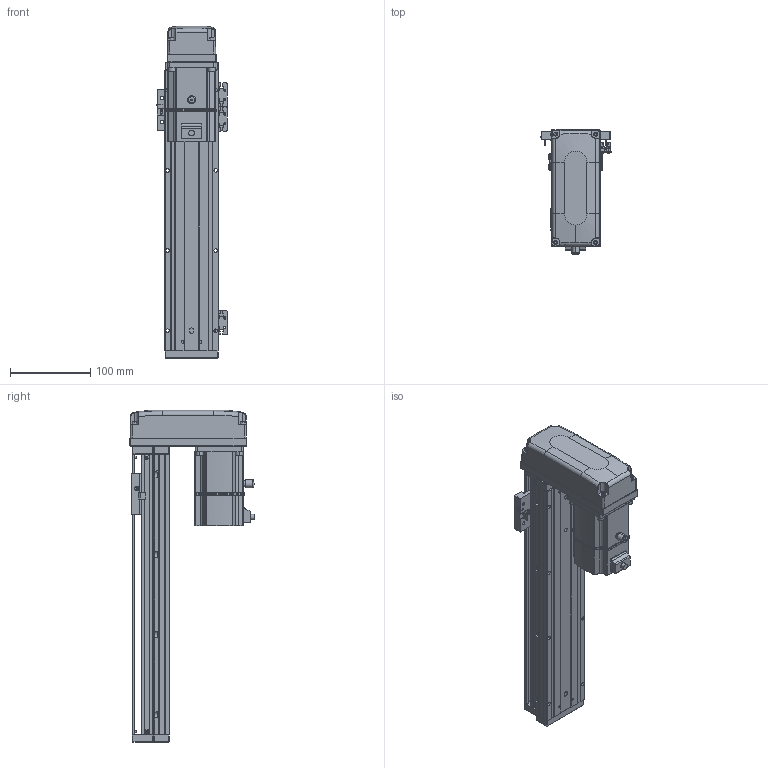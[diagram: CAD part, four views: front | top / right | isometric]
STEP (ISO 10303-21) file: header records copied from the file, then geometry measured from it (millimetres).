
FILE_DESCRIPTION (( 'STEP AP203' ), '1' );
FILE_NAME ('KTHA60-250-BM-M20-C4L.step', '2022-12-16T01:34:48', ( '微软用户' ), ( '微软中国' ), 'SwSTEP 2.0', 'SolidWorks 2020', '' );
FILE_SCHEMA (( 'CONFIG_CONTROL_DESIGN' ));
Length unit declared in the file: millimetre
Products named in the file (17): KTHA60-004; GBT 70.1-M4×16; _X2_4E0983F1_X0_200W_1; KTHA60-005; GBT77-2000M3-3; KTHA60-250-BM-M20-C4L; GB¨uT 70.2-M3¡Á5_M3¡Á6; GBT 70.1-M3℅6; GBT 70.3-M3℅6; CTHA60-016; EE_SX911P_R; KTHA60-002; CTHA60-017; BTH80-026; KTHA60-001_350; CTHA60-021; CTHA60-006-2_CTHA60-006-2
Assembly tree (51 placements, depth 2):
  KTHA60-250-BM-M20-C4L
    KTHA60-001_350
    KTHA60-004
    KTHA60-005
    GB¨uT 70.2-M3¡Á5_M3¡Á6  x6
    GBT 70.3-M3℅6  x4
    EE_SX911P_R  x3
    CTHA60-017  x3
    CTHA60-021  x2
    GBT 70.1-M4×16  x8
    GBT77-2000M3-3  x6
    GBT 70.1-M3℅6  x10
    CTHA60-016  x2
    KTHA60-002
    BTH80-026
    CTHA60-006-2_CTHA60-006-2
    _X2_4E0983F1_X0_200W_1
Bounding box: 87.72 x 155.2 x 414 mm (x, y, z)
Volume: 1099160.2 mm3; surface area: 289862.1 mm2
Topology: 54 solids, 54 shells, 2388 faces, 5661 edges, 3478 vertices
Faces by surface type: plane 1261, cylinder 632, cone 278, bspline 109, torus 92, sphere 16
Entity records: 43594 total; most frequent: CARTESIAN_POINT 10258, ORIENTED_EDGE 6370, DIRECTION 6368, EDGE_CURVE 3185, AXIS2_PLACEMENT_3D 2207, VERTEX_POINT 1987, VECTOR 1954, LINE 1954
